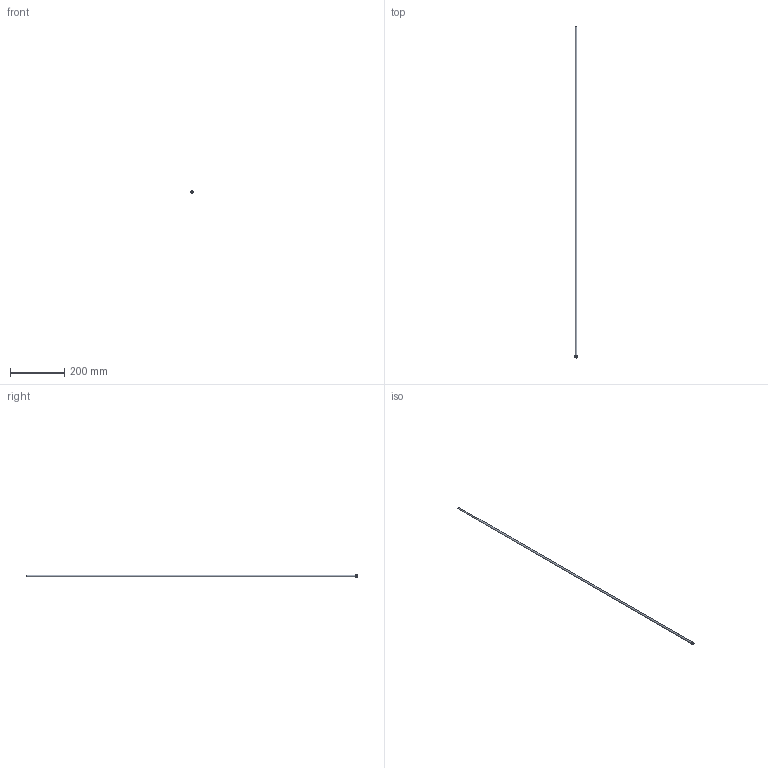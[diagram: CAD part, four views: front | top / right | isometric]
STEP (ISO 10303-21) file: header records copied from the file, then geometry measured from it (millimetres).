
FILE_DESCRIPTION(/* description */ (''),/* implementation_level */ '2;1');
FILE_NAME(/* name */ 'C:/Users/drich/Desktop/HF250T-48 v1.step',/* time_stamp */ '2019-12-30T13:35:57-06:00',/* author */ (''),/* organization */ (''),/* preprocessor_version */ 'ST-DEVELOPER v18',/* originating_system */ 'Autodesk Translation Framework v8.12.0.6',/* authorisation */ '');
FILE_SCHEMA (('AUTOMOTIVE_DESIGN { 1 0 10303 214 3 1 1 }'));
Length unit declared in the file: inch
Products named in the file (1): HF250T-48
Bounding box: 7.98 x 1219.2 x 7.98 mm (x, y, z)
Volume: 6052.4 mm3; surface area: 46768.8 mm2
Topology: 1 solids, 1 shells, 12 faces, 30 edges, 22 vertices
Faces by surface type: plane 4, cylinder 4, torus 3, cone 1
Full cylindrical faces by diameter (mm): 5.842 x1, 6.35 x1, 7.818 x1, 7.976 x1
Entity records: 426 total; most frequent: DIRECTION 81, CARTESIAN_POINT 65, ORIENTED_EDGE 60, AXIS2_PLACEMENT_3D 38, EDGE_CURVE 30, CIRCLE 25, VERTEX_POINT 22, EDGE_LOOP 16
